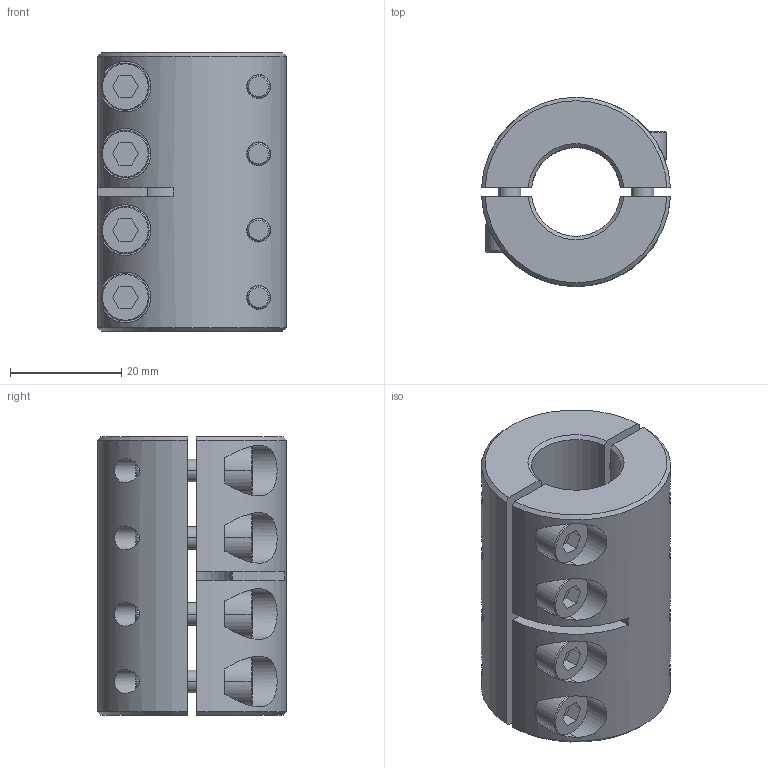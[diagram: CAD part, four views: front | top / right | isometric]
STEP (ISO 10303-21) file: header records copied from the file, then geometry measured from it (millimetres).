
FILE_DESCRIPTION((''),'2;1');
FILE_NAME('MSPX-16-16-F','2016-09-08T',('SYSTEM'),(''),'PRO/ENGINEER BY PARAMETRIC TECHNOLOGY CORPORATION, 2015110','PRO/ENGINEER BY PARAMETRIC TECHNOLOGY CORPORATION, 2015110','');
FILE_SCHEMA(('AUTOMOTIVE_DESIGN { 1 0 10303 214 1 1 1 1 }'));
Length unit declared in the file: millimetre
Products named in the file (1): MSPX-16-16-F
Bounding box: 33.96 x 34 x 50 mm (x, y, z)
Volume: 31867.6 mm3; surface area: 16536.1 mm2
Topology: 2 solids, 2 shells, 236 faces, 552 edges, 352 vertices
Faces by surface type: plane 112, cylinder 84, cone 40
Entity records: 8934 total; most frequent: CARTESIAN_POINT 1699, DIRECTION 1176, ORIENTED_EDGE 1104, EDGE_CURVE 552, AXIS2_PLACEMENT_3D 436, VERTEX_POINT 352, VECTOR 304, LINE 304
